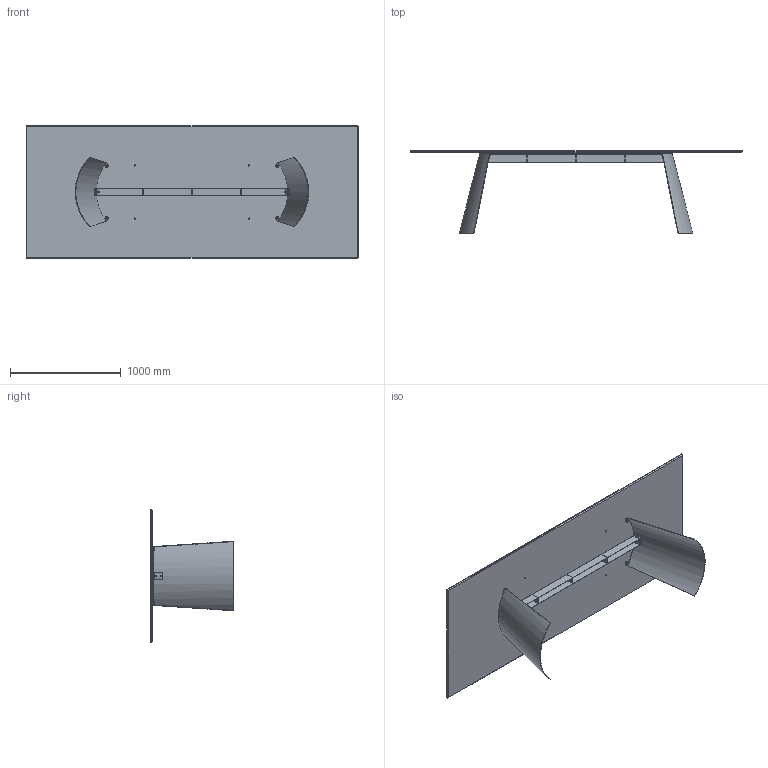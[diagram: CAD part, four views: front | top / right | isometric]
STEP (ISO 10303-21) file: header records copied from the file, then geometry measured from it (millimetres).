
FILE_DESCRIPTION (( 'STEP AP203' ), '1' );
FILE_NAME ('DN24C.STEP', '2024-08-07T15:11:52', ( '' ), ( '' ), 'SwSTEP 2.0', 'SolidWorks 2022', '' );
FILE_SCHEMA (( 'CONFIG_CONTROL_DESIGN' ));
Length unit declared in the file: millimetre
Products named in the file (14): 434070-00-PIEDINO TPV GOMMA NERO D. 30x8max18; SDNB300000-02-GAMBA X TRASP; DN24C; K2XCMXX-00-Piani Rettangolari in ceramica_3000 x 1200; nut_M8_M8; rondella M8X24; DNB300000_01-02-GAMBA DORIAN; DNB400000-02-ASSIEME STRUTTURA COMPLETA_L.1770; GRANO M8X35_barra; DNBX00000-01-DORIAN TRAVERSO LXXXX PER TAVOLO LX00_L.1770; DNB300000_02-02-RISCONTRO STANGONE CENTRALE; feltro Ø12x3; DNB300000_03-02-PIASTRINA; rondella M8_8X16
Assembly tree (37 placements, depth 4):
  DN24C
    K2XCMXX-00-Piani Rettangolari in ceramica_3000 x 1200
    DNB400000-02-ASSIEME STRUTTURA COMPLETA_L.1770
      SDNB300000-02-GAMBA X TRASP  x2
        DNB300000_01-02-GAMBA DORIAN
        DNB300000_02-02-RISCONTRO STANGONE CENTRALE
        DNB300000_03-02-PIASTRINA
      DNBX00000-01-DORIAN TRAVERSO LXXXX PER TAVOLO LX00_L.1770
    434070-00-PIEDINO TPV GOMMA NERO D. 30x8max18  x4
    nut_M8_M8  x8
    rondella M8X24  x4
    GRANO M8X35_barra  x4
    rondella M8_8X16  x4
    feltro Ø12x3  x4
Bounding box: 3000 x 746 x 1200 mm (x, y, z)
Volume: 63453365.8 mm3; surface area: 17282139.5 mm2
Topology: 48 solids, 48 shells, 632 faces, 1480 edges, 944 vertices
Faces by surface type: plane 276, cylinder 178, torus 80, cone 80, bspline 18
Entity records: 11723 total; most frequent: CARTESIAN_POINT 2299, DIRECTION 1553, ORIENTED_EDGE 1492, EDGE_CURVE 746, AXIS2_PLACEMENT_3D 546, VERTEX_POINT 488, LINE 461, VECTOR 461
